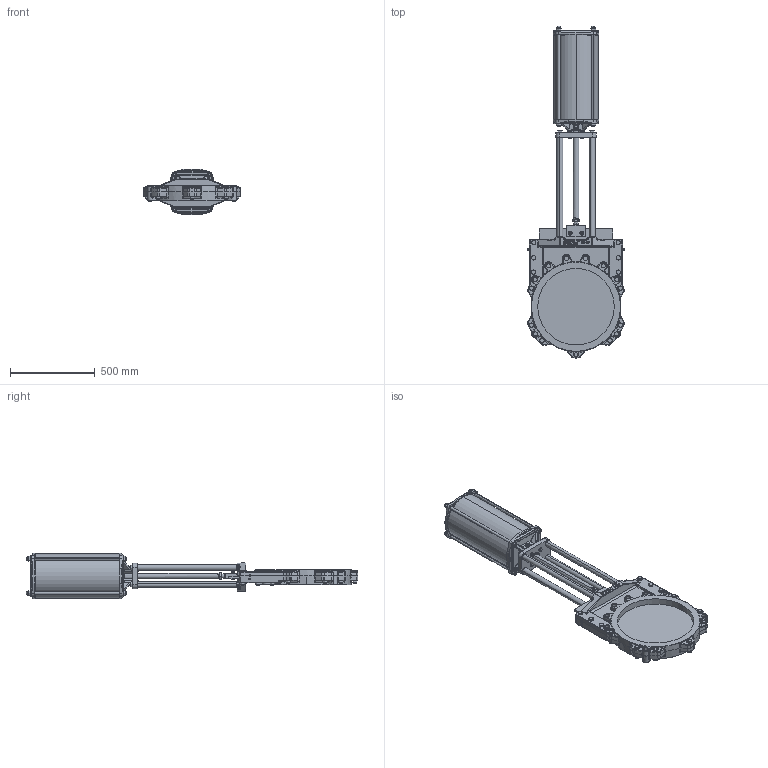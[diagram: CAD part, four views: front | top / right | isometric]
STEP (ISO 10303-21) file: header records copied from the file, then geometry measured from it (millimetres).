
FILE_DESCRIPTION (( 'STEP AP214' ), '1' );
FILE_NAME ('VSC DN 0450.STEP', '2015-09-23T11:15:39', ( 'admin' ), ( 'Hewlett-Packard Company' ), 'SwSTEP 2.0', 'SolidWorks 2013', '' );
FILE_SCHEMA (( 'AUTOMOTIVE_DESIGN' ));
Length unit declared in the file: millimetre
Products named in the file (1): VSC DN 0450
Bounding box: 569.52 x 1953.97 x 270 mm (x, y, z)
Volume: 26417068.9 mm3; surface area: 3112231.9 mm2
Topology: 68 solids, 82 shells, 3952 faces, 9188 edges, 5284 vertices
Faces by surface type: plane 1103, cylinder 874, cone 873, bspline 783, torus 259, sphere 60
Entity records: 188001 total; most frequent: CARTESIAN_POINT 61644, ORIENTED_EDGE 17876, DIRECTION 16090, EDGE_CURVE 8938, AXIS2_PLACEMENT_3D 6622, VERTEX_POINT 5276, EDGE_LOOP 4216, UNCERTAINTY_MEASURE_WITH_UNIT 4022
